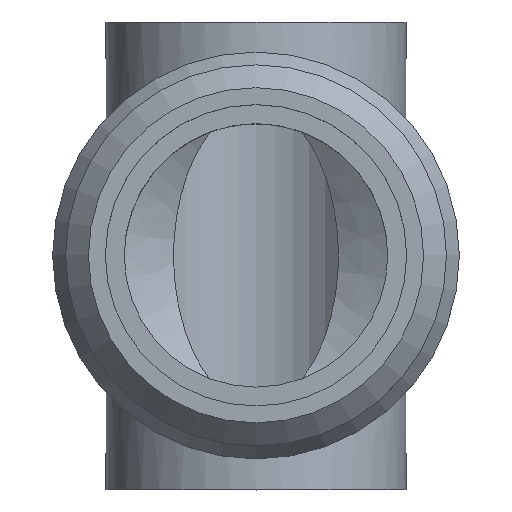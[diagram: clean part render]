
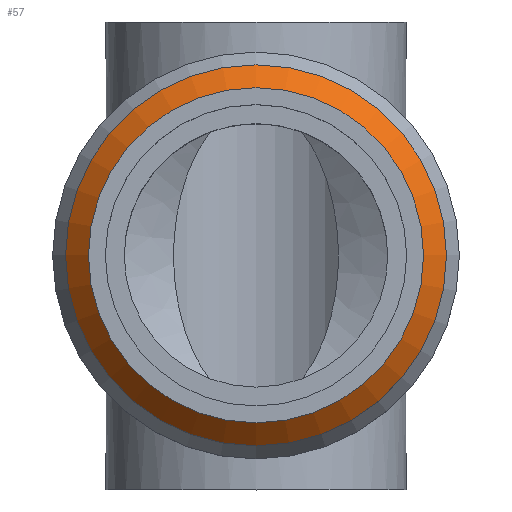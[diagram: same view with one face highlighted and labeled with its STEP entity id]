
A CAD part, top view. The second image highlights one B-rep face of the part: STEP entity #57.
In plain terms, the highlighted conical face has half-angle 45 degrees and reference radius 15.624 mm.
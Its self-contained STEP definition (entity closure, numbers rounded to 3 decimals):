
#57=ADVANCED_FACE('',(#332,#334),#336,.T.);
#332=FACE_OUTER_BOUND('',#333,.T.);
#333=EDGE_LOOP('',(#1460));
#334=FACE_OUTER_BOUND('',#335,.T.);
#335=EDGE_LOOP('',(#1461));
#336=CONICAL_SURFACE('',#337,15.625,0.785);
#337=AXIS2_PLACEMENT_3D('',#338,#339,#340);
#338=CARTESIAN_POINT('',(0.,0.,35.4));
#339=DIRECTION('',(0.,0.,-1.));
#340=DIRECTION('',(0.,1.,0.));
#1460=ORIENTED_EDGE('',*,*,#2463,.F.);
#1461=ORIENTED_EDGE('',*,*,#2347,.T.);
#2347=EDGE_CURVE('',#2769,#2769,#2770,.T.);
#2463=EDGE_CURVE('',#3001,#3001,#3002,.T.);
#2769=VERTEX_POINT('',#3499);
#2770=CIRCLE('',#3500,16.625);
#3001=VERTEX_POINT('',#4756);
#3002=CIRCLE('',#4757,14.625);
#3499=CARTESIAN_POINT('',(0.,-16.625,34.4));
#3500=AXIS2_PLACEMENT_3D('',#3501,#3502,#3503);
#3501=CARTESIAN_POINT('',(0.,0.,34.4));
#3502=DIRECTION('',(0.,0.,1.));
#3503=DIRECTION('',(0.,-1.,0.));
#4756=CARTESIAN_POINT('',(0.,-14.625,36.4));
#4757=AXIS2_PLACEMENT_3D('',#4758,#4759,#4760);
#4758=CARTESIAN_POINT('',(0.,0.,36.4));
#4759=DIRECTION('',(0.,0.,1.));
#4760=DIRECTION('',(0.,-1.,0.));
